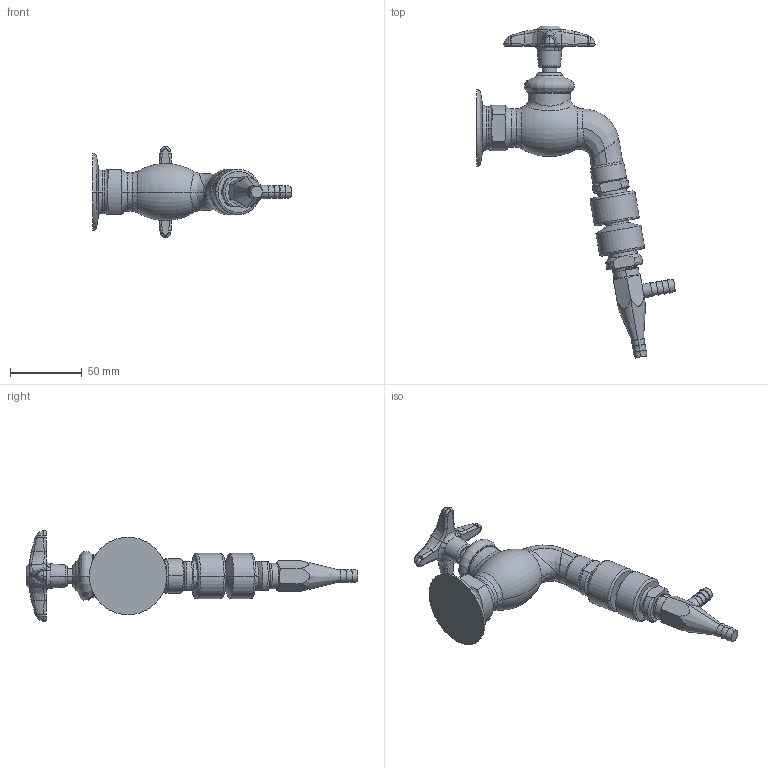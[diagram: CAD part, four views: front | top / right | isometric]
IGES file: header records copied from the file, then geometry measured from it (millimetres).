
Start section:  PTC IGES file: LWV3-B61.igs
Global section: file name: LWV3-B61.igs; native system: Creo Parametric by PTC Inc.; preprocessor: 2014500; author: usch_engrender; organization: Unknown; date: 20150910.121845; units: inch
Bounding box: 138.54 x 231.15 x 63.42 mm (x, y, z)
Volume: 170819.9 mm3; surface area: 35541.7 mm2
Topology: 1 solids, 6 shells, 428 faces, 1016 edges, 613 vertices
Faces by surface type: bspline 264, revolution 164
